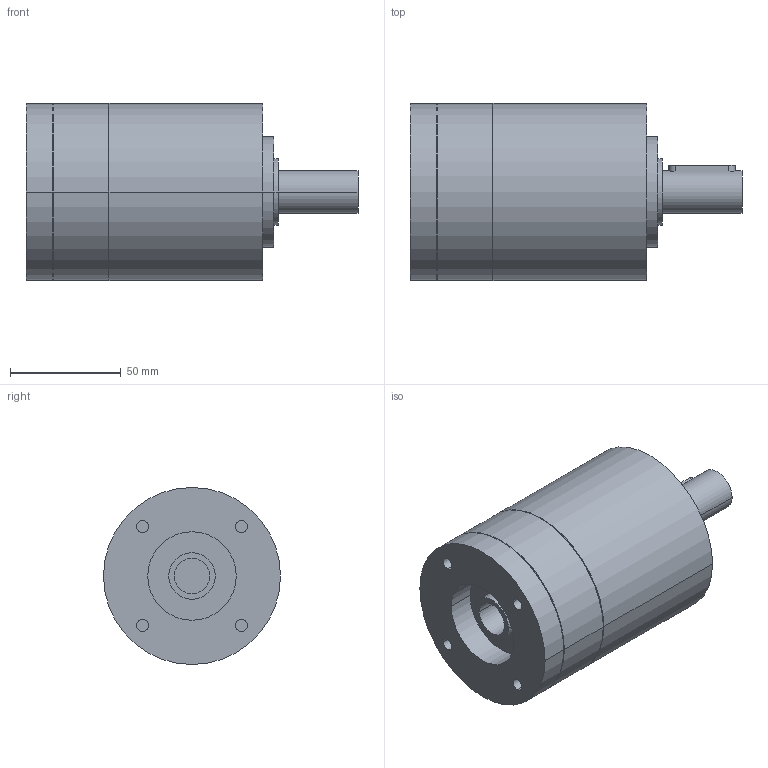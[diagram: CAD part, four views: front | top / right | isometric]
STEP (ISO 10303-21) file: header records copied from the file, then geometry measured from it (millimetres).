
FILE_DESCRIPTION(('CoCreate Modeling STEP Export'),'2;1');
FILE_NAME('GPR100_ig-3-4-5-6_19_B14_16_P17.stp','2014-08-26T10:08:14',(''),(''),'CoCreate Modeling STEP processor for AP214 (Solid Model)','CoCreate Modeling 16.00C 25-Feb-2009 (C) Parametric Technology GmbH','');
FILE_SCHEMA(('AUTOMOTIVE_DESIGN { 1 0 10303 214 1 1 1 1 }'));
Length unit declared in the file: millimetre
Products named in the file (2): GPR100_ig-3-4-5-6_19_B14_16_P17
Assembly tree (1 placements, depth 2):
  GPR100_ig-3-4-5-6_19_B14_16_P17
    GPR100_ig-3-4-5-6_19_B14_16_P17
Bounding box: 150 x 80 x 80 mm (x, y, z)
Volume: 535297.8 mm3; surface area: 47136.9 mm2
Topology: 1 solids, 1 shells, 77 faces, 195 edges, 139 vertices
Faces by surface type: cylinder 46, plane 25, cone 6
Entity records: 1961 total; most frequent: ORIENTED_EDGE 386, CARTESIAN_POINT 359, DIRECTION 254, EDGE_CURVE 193, VERTEX_POINT 139, AXIS2_PLACEMENT_3D 98, EDGE_LOOP 98, FACE_OUTER_BOUND 77
